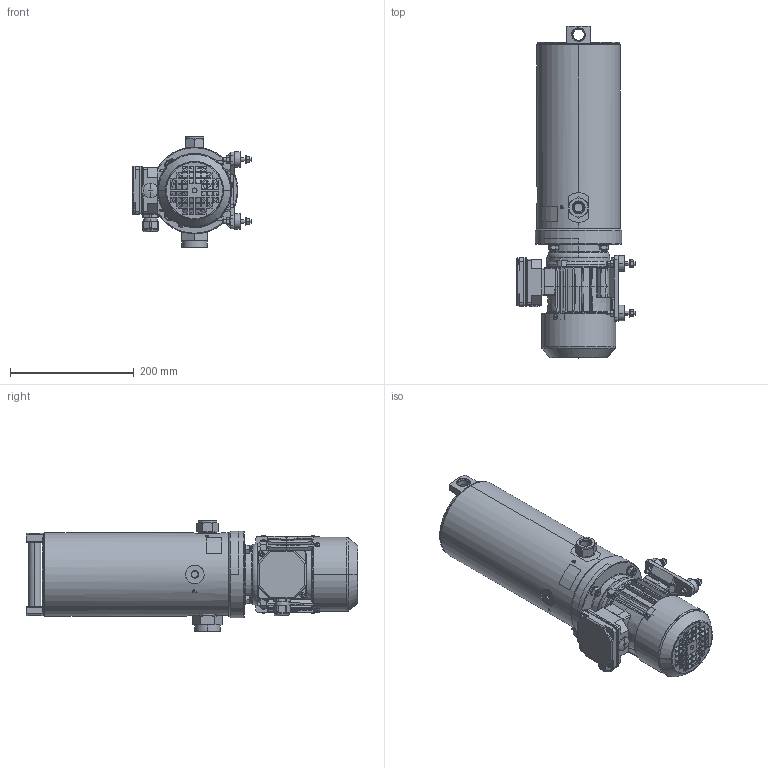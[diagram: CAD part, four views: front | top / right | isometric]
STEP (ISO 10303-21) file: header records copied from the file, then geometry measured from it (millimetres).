
FILE_DESCRIPTION((''),'2;1');
FILE_NAME('FNA_016-1753_GEFUELLT','2017-10-26T',('f.kollmann'),(''),'PRO/ENGINEER BY PARAMETRIC TECHNOLOGY CORPORATION, 2015110','PRO/ENGINEER BY PARAMETRIC TECHNOLOGY CORPORATION, 2015110','');
FILE_SCHEMA(('AUTOMOTIVE_DESIGN { 1 0 10303 214 1 1 1 1 }'));
Products named in the file (1): FNA_016-1753_GEFUELLT
Bounding box: 192.03 x 535.7 x 178 mm (x, y, z)
Volume: 5937467.2 mm3; surface area: 498071 mm2
Topology: 2 solids, 42 shells, 2642 faces, 7888 edges, 5383 vertices
Faces by surface type: plane 1192, cylinder 832, cone 406, torus 120, bspline 68, extrusion 17, sphere 7
Entity records: 139749 total; most frequent: CARTESIAN_POINT 30515, ORIENTED_EDGE 15634, DIRECTION 14726, PRESENTATION_STYLE_ASSIGNMENT 9802, STYLED_ITEM 7858, CURVE_STYLE 7847, EDGE_CURVE 7841, AXIS2_PLACEMENT_3D 5621
